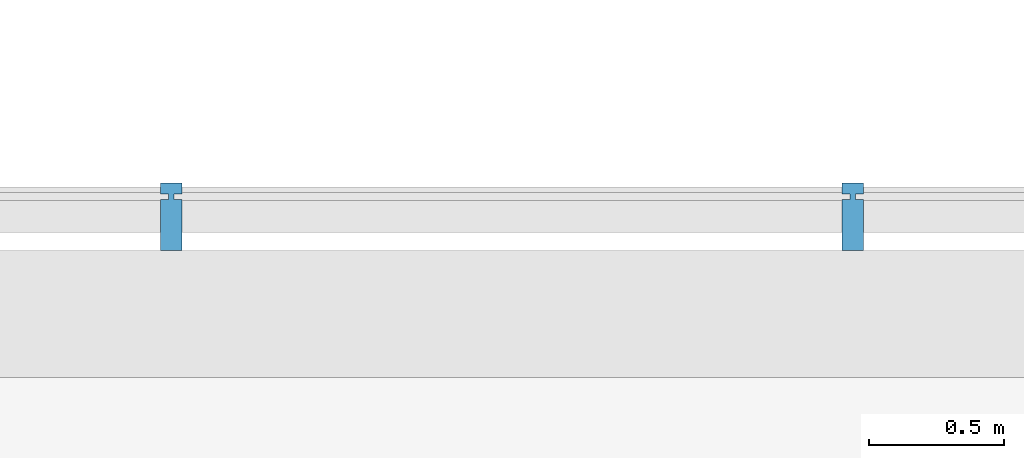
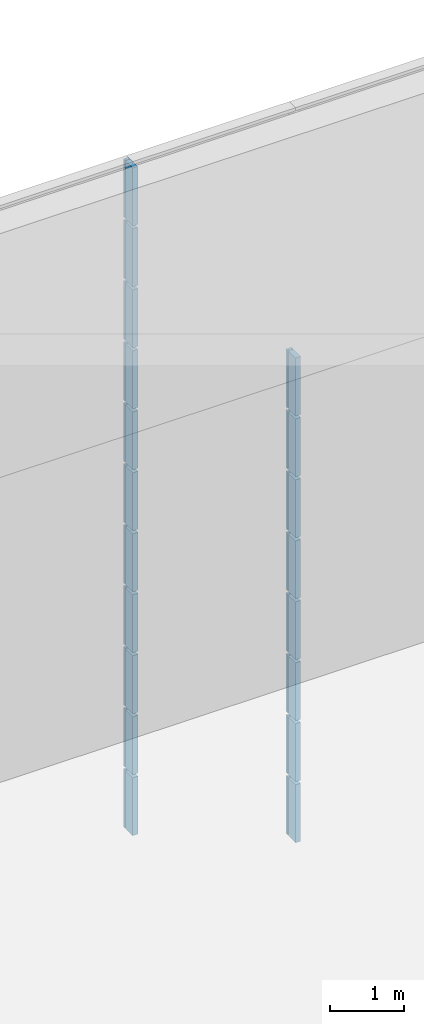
# One storey, part 88 of 105: 19 building element parts, 4 elements without a shape of their own.
"""IFC4 building model written with IfcOpenShell, lengths in millimetres."""

from ifc_helpers import new_model, entity, si_unit, converted_unit, derived_unit, direction, frame, origin_with_axes, place, context, subcontext, project, spatial, triangles, material, element, aggregate, save


model = new_model("IFC4")

# Units and contexts
model_context = context("Model", 3, precision=1e-05, world=origin_with_axes(), true_north=direction((0.0, 1.0)))
body_context = subcontext(model_context, "Body", "Model", "MODEL_VIEW")
ifc_project = project(units=[si_unit("LENGTHUNIT", "METRE", prefix="MILLI"), si_unit("AREAUNIT", "SQUARE_METRE"), si_unit("VOLUMEUNIT", "CUBIC_METRE"), converted_unit("PLANEANGLEUNIT", "DEGREE", entity("IfcLengthMeasure", 0.017453), si_unit("PLANEANGLEUNIT", "RADIAN"), dimensions=[0, 0, 0, 0, 0, 0, 0]), si_unit("SOLIDANGLEUNIT", "STERADIAN"), si_unit("MASSUNIT", "GRAM"), si_unit("TIMEUNIT", "SECOND"), si_unit("THERMODYNAMICTEMPERATUREUNIT", "DEGREE_CELSIUS"), si_unit("LUMINOUSINTENSITYUNIT", "LUMEN"), si_unit("POWERUNIT", "WATT"), derived_unit("THERMALTRANSMITTANCEUNIT", [(si_unit("POWERUNIT", "WATT"), 1), (si_unit("THERMODYNAMICTEMPERATUREUNIT", "KELVIN"), -1), (si_unit("AREAUNIT", "SQUARE_METRE"), -1)])], contexts=[model_context])

# Site, building, storey
site_placement = place(None, origin_with_axes())
site = spatial("IfcSite", under=ifc_project, at=site_placement, Name="Default Site", CompositionType="ELEMENT")
building_placement = place(site_placement, origin_with_axes())
building = spatial("IfcBuilding", under=site, at=building_placement, Name="Default Building", CompositionType="ELEMENT")
storey_placement = place(building_placement, origin_with_axes())
storey = spatial("IfcBuildingStorey", under=building, at=storey_placement, Name="OG - Story", CompositionType="ELEMENT", Elevation=0.0)

# Curtain wall, building element parts
curtain_wall_1_placement = place(storey_placement, origin_with_axes())
curtain_wall_1 = element("IfcCurtainWall", 1, at=curtain_wall_1_placement, inside=storey, Name="Fassade-004", PredefinedType="NOTDEFINED")
ifc_material = material(Name="Blech")
building_element_part_1_placement = place(curtain_wall_1_placement, frame((33014.549222, -4389.262838, 0.0), z_axis=(0.0, 0.0, 1.0), x_axis=(1.0, 0.0, 0.0)))
building_element_part_1 = element("IfcBuildingElementPart", 2, at=building_element_part_1_placement, material=ifc_material, Name="Blech", PredefinedType="NOTDEFINED", context=body_context, shape_type="Tessellation", body=[
    triangles([(16461.053, -9.999, 975.0), (16461.053, -199.999, 975.0), (16431.053, -9.999, 975.0), (16411.053, -9.999, 975.0), (16431.053, 10.0, 975.0), (16461.053, 50.0, 975.0), (16461.053, 10.0, 975.0), (16381.053, -199.999, 975.0), (16381.053, -9.999, 975.0), (16411.053, 10.0, 975.0), (16381.053, 10.0, 975.0), (16381.053, 50.0, 975.0), (16431.053, -9.999, 25.0), (16431.053, 10.0, 25.0), (16461.053, 10.0, 25.0), (16461.053, 50.0, 25.0), (16381.053, 50.0, 25.0), (16381.053, 10.0, 25.0), (16411.053, 10.0, 25.0), (16411.053, -9.999, 25.0), (16381.053, -9.999, 25.0), (16381.053, -199.999, 25.0), (16461.053, -199.999, 25.0), (16461.053, -9.999, 25.0)], [[1, 2, 3], [3, 2, 4], [3, 4, 5], [5, 4, 6], [5, 6, 7], [8, 9, 4], [8, 4, 2], [6, 4, 10], [6, 10, 11], [6, 11, 12], [3, 13, 14], [3, 14, 5], [5, 14, 15], [5, 15, 7], [15, 16, 6], [15, 6, 7], [12, 6, 16], [12, 16, 17], [18, 11, 12], [18, 12, 17], [11, 18, 19], [11, 19, 10], [4, 10, 19], [4, 19, 20], [9, 4, 20], [9, 20, 21], [9, 21, 22], [9, 22, 8], [2, 8, 22], [2, 22, 23], [1, 2, 23], [1, 23, 24], [1, 24, 13], [1, 13, 3], [15, 16, 14], [14, 16, 19], [14, 19, 13], [13, 19, 23], [13, 23, 24], [17, 18, 19], [17, 19, 16], [23, 19, 20], [23, 20, 21], [23, 21, 22]], closed=False),
])
building_element_part_2_placement = place(curtain_wall_1_placement, frame((33014.549222, -4389.262838, 0.0), z_axis=(0.0, 0.0, 1.0), x_axis=(1.0, 0.0, 0.0)))
building_element_part_2 = element("IfcBuildingElementPart", 3, at=building_element_part_2_placement, material=ifc_material, Name="Blech", PredefinedType="NOTDEFINED", context=body_context, shape_type="Tessellation", body=[
    triangles([(13934.737, -9.999, 1975.0), (13934.737, -199.999, 1975.0), (13904.737, -9.999, 1975.0), (13884.737, -9.999, 1975.0), (13904.737, 10.0, 1975.0), (13934.737, 50.0, 1975.0), (13934.737, 10.0, 1975.0), (13854.737, -199.999, 1975.0), (13854.737, -9.999, 1975.0), (13884.737, 10.0, 1975.0), (13854.737, 10.0, 1975.0), (13854.737, 50.0, 1975.0), (13904.737, -9.999, 1025.0), (13904.737, 10.0, 1025.0), (13934.737, 10.0, 1025.0), (13934.737, 50.0, 1025.0), (13854.737, 50.0, 1025.0), (13854.737, 10.0, 1025.0), (13884.737, 10.0, 1025.0), (13884.737, -9.999, 1025.0), (13854.737, -9.999, 1025.0), (13854.737, -199.999, 1025.0), (13934.737, -199.999, 1025.0), (13934.737, -9.999, 1025.0)], [[1, 2, 3], [3, 2, 4], [3, 4, 5], [5, 4, 6], [5, 6, 7], [8, 9, 4], [8, 4, 2], [6, 4, 10], [6, 10, 11], [6, 11, 12], [3, 13, 14], [3, 14, 5], [5, 14, 15], [5, 15, 7], [15, 16, 6], [15, 6, 7], [12, 6, 16], [12, 16, 17], [18, 11, 12], [18, 12, 17], [11, 18, 19], [11, 19, 10], [4, 10, 19], [4, 19, 20], [9, 4, 20], [9, 20, 21], [9, 21, 22], [9, 22, 8], [2, 8, 22], [2, 22, 23], [1, 2, 23], [1, 23, 24], [1, 24, 13], [1, 13, 3], [15, 16, 14], [14, 16, 19], [14, 19, 13], [13, 19, 23], [13, 23, 24], [17, 18, 19], [17, 19, 16], [23, 19, 20], [23, 20, 21], [23, 21, 22]], closed=False),
])
building_element_part_3_placement = place(curtain_wall_1_placement, frame((33014.549222, -4389.262838, 0.0), z_axis=(0.0, 0.0, 1.0), x_axis=(1.0, 0.0, 0.0)))
building_element_part_3 = element("IfcBuildingElementPart", 4, at=building_element_part_3_placement, material=ifc_material, Name="Blech", PredefinedType="NOTDEFINED", context=body_context, shape_type="Tessellation", body=[
    triangles([(16461.053, -9.999, 1975.0), (16461.053, -199.999, 1975.0), (16431.053, -9.999, 1975.0), (16411.053, -9.999, 1975.0), (16431.053, 10.0, 1975.0), (16461.053, 50.0, 1975.0), (16461.053, 10.0, 1975.0), (16381.053, -199.999, 1975.0), (16381.053, -9.999, 1975.0), (16411.053, 10.0, 1975.0), (16381.053, 10.0, 1975.0), (16381.053, 50.0, 1975.0), (16431.053, -9.999, 1025.0), (16431.053, 10.0, 1025.0), (16461.053, 10.0, 1025.0), (16461.053, 50.0, 1025.0), (16381.053, 50.0, 1025.0), (16381.053, 10.0, 1025.0), (16411.053, 10.0, 1025.0), (16411.053, -9.999, 1025.0), (16381.053, -9.999, 1025.0), (16381.053, -199.999, 1025.0), (16461.053, -199.999, 1025.0), (16461.053, -9.999, 1025.0)], [[1, 2, 3], [3, 2, 4], [3, 4, 5], [5, 4, 6], [5, 6, 7], [8, 9, 4], [8, 4, 2], [6, 4, 10], [6, 10, 11], [6, 11, 12], [3, 13, 14], [3, 14, 5], [5, 14, 15], [5, 15, 7], [15, 16, 6], [15, 6, 7], [12, 6, 16], [12, 16, 17], [18, 11, 12], [18, 12, 17], [11, 18, 19], [11, 19, 10], [4, 10, 19], [4, 19, 20], [9, 4, 20], [9, 20, 21], [9, 21, 22], [9, 22, 8], [2, 8, 22], [2, 22, 23], [1, 2, 23], [1, 23, 24], [1, 24, 13], [1, 13, 3], [15, 16, 14], [14, 16, 19], [14, 19, 13], [13, 19, 23], [13, 23, 24], [17, 18, 19], [17, 19, 16], [23, 19, 20], [23, 20, 21], [23, 21, 22]], closed=False),
])
building_element_part_4_placement = place(curtain_wall_1_placement, frame((33014.549222, -4389.262838, 0.0), z_axis=(0.0, 0.0, 1.0), x_axis=(1.0, 0.0, 0.0)))
building_element_part_4 = element("IfcBuildingElementPart", 5, at=building_element_part_4_placement, material=ifc_material, Name="Blech", PredefinedType="NOTDEFINED", context=body_context, shape_type="Tessellation", body=[
    triangles([(13934.737, -9.999, 2975.0), (13934.737, -199.999, 2975.0), (13904.737, -9.999, 2975.0), (13884.737, -9.999, 2975.0), (13904.737, 10.0, 2975.0), (13934.737, 50.0, 2975.0), (13934.737, 10.0, 2975.0), (13854.737, -199.999, 2975.0), (13854.737, -9.999, 2975.0), (13884.737, 10.0, 2975.0), (13854.737, 10.0, 2975.0), (13854.737, 50.0, 2975.0), (13904.737, -9.999, 2025.0), (13904.737, 10.0, 2025.0), (13934.737, 10.0, 2025.0), (13934.737, 50.0, 2025.0), (13854.737, 50.0, 2025.0), (13854.737, 10.0, 2025.0), (13884.737, 10.0, 2025.0), (13884.737, -9.999, 2025.0), (13854.737, -9.999, 2025.0), (13854.737, -199.999, 2025.0), (13934.737, -199.999, 2025.0), (13934.737, -9.999, 2025.0)], [[1, 2, 3], [3, 2, 4], [3, 4, 5], [5, 4, 6], [5, 6, 7], [8, 9, 4], [8, 4, 2], [6, 4, 10], [6, 10, 11], [6, 11, 12], [3, 13, 14], [3, 14, 5], [5, 14, 15], [5, 15, 7], [15, 16, 6], [15, 6, 7], [12, 6, 16], [12, 16, 17], [18, 11, 12], [18, 12, 17], [11, 18, 19], [11, 19, 10], [4, 10, 19], [4, 19, 20], [9, 4, 20], [9, 20, 21], [9, 21, 22], [9, 22, 8], [2, 8, 22], [2, 22, 23], [1, 2, 23], [1, 23, 24], [1, 24, 13], [1, 13, 3], [15, 16, 14], [14, 16, 19], [14, 19, 13], [13, 19, 23], [13, 23, 24], [17, 18, 19], [17, 19, 16], [23, 19, 20], [23, 20, 21], [23, 21, 22]], closed=False),
])
building_element_part_5_placement = place(curtain_wall_1_placement, frame((33014.549222, -4389.262838, 0.0), z_axis=(0.0, 0.0, 1.0), x_axis=(1.0, 0.0, 0.0)))
building_element_part_5 = element("IfcBuildingElementPart", 6, at=building_element_part_5_placement, material=ifc_material, Name="Blech", PredefinedType="NOTDEFINED", context=body_context, shape_type="Tessellation", body=[
    triangles([(16461.053, -9.999, 2975.0), (16461.053, -199.999, 2975.0), (16431.053, -9.999, 2975.0), (16411.053, -9.999, 2975.0), (16431.053, 10.0, 2975.0), (16461.053, 50.0, 2975.0), (16461.053, 10.0, 2975.0), (16381.053, -199.999, 2975.0), (16381.053, -9.999, 2975.0), (16411.053, 10.0, 2975.0), (16381.053, 10.0, 2975.0), (16381.053, 50.0, 2975.0), (16431.053, -9.999, 2025.0), (16431.053, 10.0, 2025.0), (16461.053, 10.0, 2025.0), (16461.053, 50.0, 2025.0), (16381.053, 50.0, 2025.0), (16381.053, 10.0, 2025.0), (16411.053, 10.0, 2025.0), (16411.053, -9.999, 2025.0), (16381.053, -9.999, 2025.0), (16381.053, -199.999, 2025.0), (16461.053, -199.999, 2025.0), (16461.053, -9.999, 2025.0)], [[1, 2, 3], [3, 2, 4], [3, 4, 5], [5, 4, 6], [5, 6, 7], [8, 9, 4], [8, 4, 2], [6, 4, 10], [6, 10, 11], [6, 11, 12], [3, 13, 14], [3, 14, 5], [5, 14, 15], [5, 15, 7], [15, 16, 6], [15, 6, 7], [12, 6, 16], [12, 16, 17], [18, 11, 12], [18, 12, 17], [11, 18, 19], [11, 19, 10], [4, 10, 19], [4, 19, 20], [9, 4, 20], [9, 20, 21], [9, 21, 22], [9, 22, 8], [2, 8, 22], [2, 22, 23], [1, 2, 23], [1, 23, 24], [1, 24, 13], [1, 13, 3], [15, 16, 14], [14, 16, 19], [14, 19, 13], [13, 19, 23], [13, 23, 24], [17, 18, 19], [17, 19, 16], [23, 19, 20], [23, 20, 21], [23, 21, 22]], closed=False),
])
aggregate(curtain_wall_1, [building_element_part_1, building_element_part_2, building_element_part_3, building_element_part_4, building_element_part_5])

curtain_wall_2_placement = place(storey_placement, origin_with_axes())
curtain_wall_2 = element("IfcCurtainWall", 7, at=curtain_wall_2_placement, inside=storey, Name="Fassade-004", PredefinedType="NOTDEFINED")
building_element_part_6_placement = place(curtain_wall_2_placement, frame((33014.549222, -4389.262838, 3000.0), z_axis=(0.0, 0.0, 1.0), x_axis=(1.0, 0.0, 0.0)))
building_element_part_6 = element("IfcBuildingElementPart", 8, at=building_element_part_6_placement, material=ifc_material, Name="Blech", PredefinedType="NOTDEFINED", context=body_context, shape_type="Tessellation", body=[
    triangles([(13934.737, -9.999, 975.0), (13934.737, -199.999, 975.0), (13904.737, -9.999, 975.0), (13884.737, -9.999, 975.0), (13904.737, 10.0, 975.0), (13934.737, 50.0, 975.0), (13934.737, 10.0, 975.0), (13854.737, -199.999, 975.0), (13854.737, -9.999, 975.0), (13884.737, 10.0, 975.0), (13854.737, 10.0, 975.0), (13854.737, 50.0, 975.0), (13904.737, -9.999, 25.0), (13904.737, 10.0, 25.0), (13934.737, 10.0, 25.0), (13934.737, 50.0, 25.0), (13854.737, 50.0, 25.0), (13854.737, 10.0, 25.0), (13884.737, 10.0, 25.0), (13884.737, -9.999, 25.0), (13854.737, -9.999, 25.0), (13854.737, -199.999, 25.0), (13934.737, -199.999, 25.0), (13934.737, -9.999, 25.0)], [[1, 2, 3], [3, 2, 4], [3, 4, 5], [5, 4, 6], [5, 6, 7], [8, 9, 4], [8, 4, 2], [6, 4, 10], [6, 10, 11], [6, 11, 12], [3, 13, 14], [3, 14, 5], [5, 14, 15], [5, 15, 7], [15, 16, 6], [15, 6, 7], [12, 6, 16], [12, 16, 17], [18, 11, 12], [18, 12, 17], [11, 18, 19], [11, 19, 10], [4, 10, 19], [4, 19, 20], [9, 4, 20], [9, 20, 21], [9, 21, 22], [9, 22, 8], [2, 8, 22], [2, 22, 23], [1, 2, 23], [1, 23, 24], [1, 24, 13], [1, 13, 3], [15, 16, 14], [14, 16, 19], [14, 19, 13], [13, 19, 23], [13, 23, 24], [17, 18, 19], [17, 19, 16], [23, 19, 20], [23, 20, 21], [23, 21, 22]], closed=False),
])
building_element_part_7_placement = place(curtain_wall_2_placement, frame((33014.549222, -4389.262838, 3000.0), z_axis=(0.0, 0.0, 1.0), x_axis=(1.0, 0.0, 0.0)))
building_element_part_7 = element("IfcBuildingElementPart", 9, at=building_element_part_7_placement, material=ifc_material, Name="Blech", PredefinedType="NOTDEFINED", context=body_context, shape_type="Tessellation", body=[
    triangles([(16461.053, -9.999, 975.0), (16461.053, -199.999, 975.0), (16431.053, -9.999, 975.0), (16411.053, -9.999, 975.0), (16431.053, 10.0, 975.0), (16461.053, 50.0, 975.0), (16461.053, 10.0, 975.0), (16381.053, -199.999, 975.0), (16381.053, -9.999, 975.0), (16411.053, 10.0, 975.0), (16381.053, 10.0, 975.0), (16381.053, 50.0, 975.0), (16431.053, -9.999, 25.0), (16431.053, 10.0, 25.0), (16461.053, 10.0, 25.0), (16461.053, 50.0, 25.0), (16381.053, 50.0, 25.0), (16381.053, 10.0, 25.0), (16411.053, 10.0, 25.0), (16411.053, -9.999, 25.0), (16381.053, -9.999, 25.0), (16381.053, -199.999, 25.0), (16461.053, -199.999, 25.0), (16461.053, -9.999, 25.0)], [[1, 2, 3], [3, 2, 4], [3, 4, 5], [5, 4, 6], [5, 6, 7], [8, 9, 4], [8, 4, 2], [6, 4, 10], [6, 10, 11], [6, 11, 12], [3, 13, 14], [3, 14, 5], [5, 14, 15], [5, 15, 7], [15, 16, 6], [15, 6, 7], [12, 6, 16], [12, 16, 17], [18, 11, 12], [18, 12, 17], [11, 18, 19], [11, 19, 10], [4, 10, 19], [4, 19, 20], [9, 4, 20], [9, 20, 21], [9, 21, 22], [9, 22, 8], [2, 8, 22], [2, 22, 23], [1, 2, 23], [1, 23, 24], [1, 24, 13], [1, 13, 3], [15, 16, 14], [14, 16, 19], [14, 19, 13], [13, 19, 23], [13, 23, 24], [17, 18, 19], [17, 19, 16], [23, 19, 20], [23, 20, 21], [23, 21, 22]], closed=False),
])
building_element_part_8_placement = place(curtain_wall_2_placement, frame((33014.549222, -4389.262838, 3000.0), z_axis=(0.0, 0.0, 1.0), x_axis=(1.0, 0.0, 0.0)))
building_element_part_8 = element("IfcBuildingElementPart", 10, at=building_element_part_8_placement, material=ifc_material, Name="Blech", PredefinedType="NOTDEFINED", context=body_context, shape_type="Tessellation", body=[
    triangles([(13934.737, -9.999, 1975.0), (13934.737, -199.999, 1975.0), (13904.737, -9.999, 1975.0), (13884.737, -9.999, 1975.0), (13904.737, 10.0, 1975.0), (13934.737, 50.0, 1975.0), (13934.737, 10.0, 1975.0), (13854.737, -199.999, 1975.0), (13854.737, -9.999, 1975.0), (13884.737, 10.0, 1975.0), (13854.737, 10.0, 1975.0), (13854.737, 50.0, 1975.0), (13904.737, -9.999, 1025.0), (13904.737, 10.0, 1025.0), (13934.737, 10.0, 1025.0), (13934.737, 50.0, 1025.0), (13854.737, 50.0, 1025.0), (13854.737, 10.0, 1025.0), (13884.737, 10.0, 1025.0), (13884.737, -9.999, 1025.0), (13854.737, -9.999, 1025.0), (13854.737, -199.999, 1025.0), (13934.737, -199.999, 1025.0), (13934.737, -9.999, 1025.0)], [[1, 2, 3], [3, 2, 4], [3, 4, 5], [5, 4, 6], [5, 6, 7], [8, 9, 4], [8, 4, 2], [6, 4, 10], [6, 10, 11], [6, 11, 12], [3, 13, 14], [3, 14, 5], [5, 14, 15], [5, 15, 7], [15, 16, 6], [15, 6, 7], [12, 6, 16], [12, 16, 17], [18, 11, 12], [18, 12, 17], [11, 18, 19], [11, 19, 10], [4, 10, 19], [4, 19, 20], [9, 4, 20], [9, 20, 21], [9, 21, 22], [9, 22, 8], [2, 8, 22], [2, 22, 23], [1, 2, 23], [1, 23, 24], [1, 24, 13], [1, 13, 3], [15, 16, 14], [14, 16, 19], [14, 19, 13], [13, 19, 23], [13, 23, 24], [17, 18, 19], [17, 19, 16], [23, 19, 20], [23, 20, 21], [23, 21, 22]], closed=False),
])
building_element_part_9_placement = place(curtain_wall_2_placement, frame((33014.549222, -4389.262838, 3000.0), z_axis=(0.0, 0.0, 1.0), x_axis=(1.0, 0.0, 0.0)))
building_element_part_9 = element("IfcBuildingElementPart", 11, at=building_element_part_9_placement, material=ifc_material, Name="Blech", PredefinedType="NOTDEFINED", context=body_context, shape_type="Tessellation", body=[
    triangles([(16461.053, -9.999, 1975.0), (16461.053, -199.999, 1975.0), (16431.053, -9.999, 1975.0), (16411.053, -9.999, 1975.0), (16431.053, 10.0, 1975.0), (16461.053, 50.0, 1975.0), (16461.053, 10.0, 1975.0), (16381.053, -199.999, 1975.0), (16381.053, -9.999, 1975.0), (16411.053, 10.0, 1975.0), (16381.053, 10.0, 1975.0), (16381.053, 50.0, 1975.0), (16431.053, -9.999, 1025.0), (16431.053, 10.0, 1025.0), (16461.053, 10.0, 1025.0), (16461.053, 50.0, 1025.0), (16381.053, 50.0, 1025.0), (16381.053, 10.0, 1025.0), (16411.053, 10.0, 1025.0), (16411.053, -9.999, 1025.0), (16381.053, -9.999, 1025.0), (16381.053, -199.999, 1025.0), (16461.053, -199.999, 1025.0), (16461.053, -9.999, 1025.0)], [[1, 2, 3], [3, 2, 4], [3, 4, 5], [5, 4, 6], [5, 6, 7], [8, 9, 4], [8, 4, 2], [6, 4, 10], [6, 10, 11], [6, 11, 12], [3, 13, 14], [3, 14, 5], [5, 14, 15], [5, 15, 7], [15, 16, 6], [15, 6, 7], [12, 6, 16], [12, 16, 17], [18, 11, 12], [18, 12, 17], [11, 18, 19], [11, 19, 10], [4, 10, 19], [4, 19, 20], [9, 4, 20], [9, 20, 21], [9, 21, 22], [9, 22, 8], [2, 8, 22], [2, 22, 23], [1, 2, 23], [1, 23, 24], [1, 24, 13], [1, 13, 3], [15, 16, 14], [14, 16, 19], [14, 19, 13], [13, 19, 23], [13, 23, 24], [17, 18, 19], [17, 19, 16], [23, 19, 20], [23, 20, 21], [23, 21, 22]], closed=False),
])
building_element_part_10_placement = place(curtain_wall_2_placement, frame((33014.549222, -4389.262838, 3000.0), z_axis=(0.0, 0.0, 1.0), x_axis=(1.0, 0.0, 0.0)))
building_element_part_10 = element("IfcBuildingElementPart", 12, at=building_element_part_10_placement, material=ifc_material, Name="Blech", PredefinedType="NOTDEFINED", context=body_context, shape_type="Tessellation", body=[
    triangles([(13934.737, -9.999, 2975.0), (13934.737, -199.999, 2975.0), (13904.737, -9.999, 2975.0), (13884.737, -9.999, 2975.0), (13904.737, 10.0, 2975.0), (13934.737, 50.0, 2975.0), (13934.737, 10.0, 2975.0), (13854.737, -199.999, 2975.0), (13854.737, -9.999, 2975.0), (13884.737, 10.0, 2975.0), (13854.737, 10.0, 2975.0), (13854.737, 50.0, 2975.0), (13904.737, -9.999, 2025.0), (13904.737, 10.0, 2025.0), (13934.737, 10.0, 2025.0), (13934.737, 50.0, 2025.0), (13854.737, 50.0, 2025.0), (13854.737, 10.0, 2025.0), (13884.737, 10.0, 2025.0), (13884.737, -9.999, 2025.0), (13854.737, -9.999, 2025.0), (13854.737, -199.999, 2025.0), (13934.737, -199.999, 2025.0), (13934.737, -9.999, 2025.0)], [[1, 2, 3], [3, 2, 4], [3, 4, 5], [5, 4, 6], [5, 6, 7], [8, 9, 4], [8, 4, 2], [6, 4, 10], [6, 10, 11], [6, 11, 12], [3, 13, 14], [3, 14, 5], [5, 14, 15], [5, 15, 7], [15, 16, 6], [15, 6, 7], [12, 6, 16], [12, 16, 17], [18, 11, 12], [18, 12, 17], [11, 18, 19], [11, 19, 10], [4, 10, 19], [4, 19, 20], [9, 4, 20], [9, 20, 21], [9, 21, 22], [9, 22, 8], [2, 8, 22], [2, 22, 23], [1, 2, 23], [1, 23, 24], [1, 24, 13], [1, 13, 3], [15, 16, 14], [14, 16, 19], [14, 19, 13], [13, 19, 23], [13, 23, 24], [17, 18, 19], [17, 19, 16], [23, 19, 20], [23, 20, 21], [23, 21, 22]], closed=False),
])
building_element_part_11_placement = place(curtain_wall_2_placement, frame((33014.549222, -4389.262838, 3000.0), z_axis=(0.0, 0.0, 1.0), x_axis=(1.0, 0.0, 0.0)))
building_element_part_11 = element("IfcBuildingElementPart", 13, at=building_element_part_11_placement, material=ifc_material, Name="Blech", PredefinedType="NOTDEFINED", context=body_context, shape_type="Tessellation", body=[
    triangles([(16461.053, -9.999, 2975.0), (16461.053, -199.999, 2975.0), (16431.053, -9.999, 2975.0), (16411.053, -9.999, 2975.0), (16431.053, 10.0, 2975.0), (16461.053, 50.0, 2975.0), (16461.053, 10.0, 2975.0), (16381.053, -199.999, 2975.0), (16381.053, -9.999, 2975.0), (16411.053, 10.0, 2975.0), (16381.053, 10.0, 2975.0), (16381.053, 50.0, 2975.0), (16431.053, -9.999, 2025.0), (16431.053, 10.0, 2025.0), (16461.053, 10.0, 2025.0), (16461.053, 50.0, 2025.0), (16381.053, 50.0, 2025.0), (16381.053, 10.0, 2025.0), (16411.053, 10.0, 2025.0), (16411.053, -9.999, 2025.0), (16381.053, -9.999, 2025.0), (16381.053, -199.999, 2025.0), (16461.053, -199.999, 2025.0), (16461.053, -9.999, 2025.0)], [[1, 2, 3], [3, 2, 4], [3, 4, 5], [5, 4, 6], [5, 6, 7], [8, 9, 4], [8, 4, 2], [6, 4, 10], [6, 10, 11], [6, 11, 12], [3, 13, 14], [3, 14, 5], [5, 14, 15], [5, 15, 7], [15, 16, 6], [15, 6, 7], [12, 6, 16], [12, 16, 17], [18, 11, 12], [18, 12, 17], [11, 18, 19], [11, 19, 10], [4, 10, 19], [4, 19, 20], [9, 4, 20], [9, 20, 21], [9, 21, 22], [9, 22, 8], [2, 8, 22], [2, 22, 23], [1, 2, 23], [1, 23, 24], [1, 24, 13], [1, 13, 3], [15, 16, 14], [14, 16, 19], [14, 19, 13], [13, 19, 23], [13, 23, 24], [17, 18, 19], [17, 19, 16], [23, 19, 20], [23, 20, 21], [23, 21, 22]], closed=False),
])
aggregate(curtain_wall_2, [building_element_part_6, building_element_part_7, building_element_part_8, building_element_part_9, building_element_part_10, building_element_part_11])

curtain_wall_3_placement = place(storey_placement, origin_with_axes())
curtain_wall_3 = element("IfcCurtainWall", 14, at=curtain_wall_3_placement, inside=storey, Name="Fassade-004", PredefinedType="NOTDEFINED")
building_element_part_12_placement = place(curtain_wall_3_placement, frame((33014.549222, -4389.262838, 6000.0), z_axis=(0.0, 0.0, 1.0), x_axis=(1.0, 0.0, 0.0)))
building_element_part_12 = element("IfcBuildingElementPart", 15, at=building_element_part_12_placement, material=ifc_material, Name="Blech", PredefinedType="NOTDEFINED", context=body_context, shape_type="Tessellation", body=[
    triangles([(13934.737, -9.999, 975.0), (13934.737, -199.999, 975.0), (13904.737, -9.999, 975.0), (13884.737, -9.999, 975.0), (13904.737, 10.0, 975.0), (13934.737, 50.0, 975.0), (13934.737, 10.0, 975.0), (13854.737, -199.999, 975.0), (13854.737, -9.999, 975.0), (13884.737, 10.0, 975.0), (13854.737, 10.0, 975.0), (13854.737, 50.0, 975.0), (13904.737, -9.999, 25.0), (13904.737, 10.0, 25.0), (13934.737, 10.0, 25.0), (13934.737, 50.0, 25.0), (13854.737, 50.0, 25.0), (13854.737, 10.0, 25.0), (13884.737, 10.0, 25.0), (13884.737, -9.999, 25.0), (13854.737, -9.999, 25.0), (13854.737, -199.999, 25.0), (13934.737, -199.999, 25.0), (13934.737, -9.999, 25.0)], [[1, 2, 3], [3, 2, 4], [3, 4, 5], [5, 4, 6], [5, 6, 7], [8, 9, 4], [8, 4, 2], [6, 4, 10], [6, 10, 11], [6, 11, 12], [3, 13, 14], [3, 14, 5], [5, 14, 15], [5, 15, 7], [15, 16, 6], [15, 6, 7], [12, 6, 16], [12, 16, 17], [18, 11, 12], [18, 12, 17], [11, 18, 19], [11, 19, 10], [4, 10, 19], [4, 19, 20], [9, 4, 20], [9, 20, 21], [9, 21, 22], [9, 22, 8], [2, 8, 22], [2, 22, 23], [1, 2, 23], [1, 23, 24], [1, 24, 13], [1, 13, 3], [15, 16, 14], [14, 16, 19], [14, 19, 13], [13, 19, 23], [13, 23, 24], [17, 18, 19], [17, 19, 16], [23, 19, 20], [23, 20, 21], [23, 21, 22]], closed=False),
])
building_element_part_13_placement = place(curtain_wall_3_placement, frame((33014.549222, -4389.262838, 6000.0), z_axis=(0.0, 0.0, 1.0), x_axis=(1.0, 0.0, 0.0)))
building_element_part_13 = element("IfcBuildingElementPart", 16, at=building_element_part_13_placement, material=ifc_material, Name="Blech", PredefinedType="NOTDEFINED", context=body_context, shape_type="Tessellation", body=[
    triangles([(16461.053, -9.999, 975.0), (16461.053, -199.999, 975.0), (16431.053, -9.999, 975.0), (16411.053, -9.999, 975.0), (16431.053, 10.0, 975.0), (16461.053, 50.0, 975.0), (16461.053, 10.0, 975.0), (16381.053, -199.999, 975.0), (16381.053, -9.999, 975.0), (16411.053, 10.0, 975.0), (16381.053, 10.0, 975.0), (16381.053, 50.0, 975.0), (16431.053, -9.999, 25.0), (16431.053, 10.0, 25.0), (16461.053, 10.0, 25.0), (16461.053, 50.0, 25.0), (16381.053, 50.0, 25.0), (16381.053, 10.0, 25.0), (16411.053, 10.0, 25.0), (16411.053, -9.999, 25.0), (16381.053, -9.999, 25.0), (16381.053, -199.999, 25.0), (16461.053, -199.999, 25.0), (16461.053, -9.999, 25.0)], [[1, 2, 3], [3, 2, 4], [3, 4, 5], [5, 4, 6], [5, 6, 7], [8, 9, 4], [8, 4, 2], [6, 4, 10], [6, 10, 11], [6, 11, 12], [3, 13, 14], [3, 14, 5], [5, 14, 15], [5, 15, 7], [15, 16, 6], [15, 6, 7], [12, 6, 16], [12, 16, 17], [18, 11, 12], [18, 12, 17], [11, 18, 19], [11, 19, 10], [4, 10, 19], [4, 19, 20], [9, 4, 20], [9, 20, 21], [9, 21, 22], [9, 22, 8], [2, 8, 22], [2, 22, 23], [1, 2, 23], [1, 23, 24], [1, 24, 13], [1, 13, 3], [15, 16, 14], [14, 16, 19], [14, 19, 13], [13, 19, 23], [13, 23, 24], [17, 18, 19], [17, 19, 16], [23, 19, 20], [23, 20, 21], [23, 21, 22]], closed=False),
])
building_element_part_14_placement = place(curtain_wall_3_placement, frame((33014.549222, -4389.262838, 6000.0), z_axis=(0.0, 0.0, 1.0), x_axis=(1.0, 0.0, 0.0)))
building_element_part_14 = element("IfcBuildingElementPart", 17, at=building_element_part_14_placement, material=ifc_material, Name="Blech", PredefinedType="NOTDEFINED", context=body_context, shape_type="Tessellation", body=[
    triangles([(13934.737, -9.999, 1975.0), (13934.737, -199.999, 1975.0), (13904.737, -9.999, 1975.0), (13884.737, -9.999, 1975.0), (13904.737, 10.0, 1975.0), (13934.737, 50.0, 1975.0), (13934.737, 10.0, 1975.0), (13854.737, -199.999, 1975.0), (13854.737, -9.999, 1975.0), (13884.737, 10.0, 1975.0), (13854.737, 10.0, 1975.0), (13854.737, 50.0, 1975.0), (13904.737, -9.999, 1025.0), (13904.737, 10.0, 1025.0), (13934.737, 10.0, 1025.0), (13934.737, 50.0, 1025.0), (13854.737, 50.0, 1025.0), (13854.737, 10.0, 1025.0), (13884.737, 10.0, 1025.0), (13884.737, -9.999, 1025.0), (13854.737, -9.999, 1025.0), (13854.737, -199.999, 1025.0), (13934.737, -199.999, 1025.0), (13934.737, -9.999, 1025.0)], [[1, 2, 3], [3, 2, 4], [3, 4, 5], [5, 4, 6], [5, 6, 7], [8, 9, 4], [8, 4, 2], [6, 4, 10], [6, 10, 11], [6, 11, 12], [3, 13, 14], [3, 14, 5], [5, 14, 15], [5, 15, 7], [15, 16, 6], [15, 6, 7], [12, 6, 16], [12, 16, 17], [18, 11, 12], [18, 12, 17], [11, 18, 19], [11, 19, 10], [4, 10, 19], [4, 19, 20], [9, 4, 20], [9, 20, 21], [9, 21, 22], [9, 22, 8], [2, 8, 22], [2, 22, 23], [1, 2, 23], [1, 23, 24], [1, 24, 13], [1, 13, 3], [15, 16, 14], [14, 16, 19], [14, 19, 13], [13, 19, 23], [13, 23, 24], [17, 18, 19], [17, 19, 16], [23, 19, 20], [23, 20, 21], [23, 21, 22]], closed=False),
])
building_element_part_15_placement = place(curtain_wall_3_placement, frame((33014.549222, -4389.262838, 6000.0), z_axis=(0.0, 0.0, 1.0), x_axis=(1.0, 0.0, 0.0)))
building_element_part_15 = element("IfcBuildingElementPart", 18, at=building_element_part_15_placement, material=ifc_material, Name="Blech", PredefinedType="NOTDEFINED", context=body_context, shape_type="Tessellation", body=[
    triangles([(16461.053, -9.999, 1975.0), (16461.053, -199.999, 1975.0), (16431.053, -9.999, 1975.0), (16411.053, -9.999, 1975.0), (16431.053, 10.0, 1975.0), (16461.053, 50.0, 1975.0), (16461.053, 10.0, 1975.0), (16381.053, -199.999, 1975.0), (16381.053, -9.999, 1975.0), (16411.053, 10.0, 1975.0), (16381.053, 10.0, 1975.0), (16381.053, 50.0, 1975.0), (16431.053, -9.999, 1025.0), (16431.053, 10.0, 1025.0), (16461.053, 10.0, 1025.0), (16461.053, 50.0, 1025.0), (16381.053, 50.0, 1025.0), (16381.053, 10.0, 1025.0), (16411.053, 10.0, 1025.0), (16411.053, -9.999, 1025.0), (16381.053, -9.999, 1025.0), (16381.053, -199.999, 1025.0), (16461.053, -199.999, 1025.0), (16461.053, -9.999, 1025.0)], [[1, 2, 3], [3, 2, 4], [3, 4, 5], [5, 4, 6], [5, 6, 7], [8, 9, 4], [8, 4, 2], [6, 4, 10], [6, 10, 11], [6, 11, 12], [3, 13, 14], [3, 14, 5], [5, 14, 15], [5, 15, 7], [15, 16, 6], [15, 6, 7], [12, 6, 16], [12, 16, 17], [18, 11, 12], [18, 12, 17], [11, 18, 19], [11, 19, 10], [4, 10, 19], [4, 19, 20], [9, 4, 20], [9, 20, 21], [9, 21, 22], [9, 22, 8], [2, 8, 22], [2, 22, 23], [1, 2, 23], [1, 23, 24], [1, 24, 13], [1, 13, 3], [15, 16, 14], [14, 16, 19], [14, 19, 13], [13, 19, 23], [13, 23, 24], [17, 18, 19], [17, 19, 16], [23, 19, 20], [23, 20, 21], [23, 21, 22]], closed=False),
])
building_element_part_16_placement = place(curtain_wall_3_placement, frame((33014.549222, -4389.262838, 6000.0), z_axis=(0.0, 0.0, 1.0), x_axis=(1.0, 0.0, 0.0)))
building_element_part_16 = element("IfcBuildingElementPart", 19, at=building_element_part_16_placement, material=ifc_material, Name="Blech", PredefinedType="NOTDEFINED", context=body_context, shape_type="Tessellation", body=[
    triangles([(13934.737, -9.999, 2975.0), (13934.737, -199.999, 2975.0), (13904.737, -9.999, 2975.0), (13884.737, -9.999, 2975.0), (13904.737, 10.0, 2975.0), (13934.737, 50.0, 2975.0), (13934.737, 10.0, 2975.0), (13854.737, -199.999, 2975.0), (13854.737, -9.999, 2975.0), (13884.737, 10.0, 2975.0), (13854.737, 10.0, 2975.0), (13854.737, 50.0, 2975.0), (13904.737, -9.999, 2025.0), (13904.737, 10.0, 2025.0), (13934.737, 10.0, 2025.0), (13934.737, 50.0, 2025.0), (13854.737, 50.0, 2025.0), (13854.737, 10.0, 2025.0), (13884.737, 10.0, 2025.0), (13884.737, -9.999, 2025.0), (13854.737, -9.999, 2025.0), (13854.737, -199.999, 2025.0), (13934.737, -199.999, 2025.0), (13934.737, -9.999, 2025.0)], [[1, 2, 3], [3, 2, 4], [3, 4, 5], [5, 4, 6], [5, 6, 7], [8, 9, 4], [8, 4, 2], [6, 4, 10], [6, 10, 11], [6, 11, 12], [3, 13, 14], [3, 14, 5], [5, 14, 15], [5, 15, 7], [15, 16, 6], [15, 6, 7], [12, 6, 16], [12, 16, 17], [18, 11, 12], [18, 12, 17], [11, 18, 19], [11, 19, 10], [4, 10, 19], [4, 19, 20], [9, 4, 20], [9, 20, 21], [9, 21, 22], [9, 22, 8], [2, 8, 22], [2, 22, 23], [1, 2, 23], [1, 23, 24], [1, 24, 13], [1, 13, 3], [15, 16, 14], [14, 16, 19], [14, 19, 13], [13, 19, 23], [13, 23, 24], [17, 18, 19], [17, 19, 16], [23, 19, 20], [23, 20, 21], [23, 21, 22]], closed=False),
])
aggregate(curtain_wall_3, [building_element_part_12, building_element_part_13, building_element_part_14, building_element_part_15, building_element_part_16])

curtain_wall_4_placement = place(storey_placement, origin_with_axes())
curtain_wall_4 = element("IfcCurtainWall", 20, at=curtain_wall_4_placement, inside=storey, Name="Fassade-004", PredefinedType="NOTDEFINED")
building_element_part_17_placement = place(curtain_wall_4_placement, frame((33014.549222, -4389.262838, 9000.0), z_axis=(0.0, 0.0, 1.0), x_axis=(1.0, 0.0, 0.0)))
building_element_part_17 = element("IfcBuildingElementPart", 21, at=building_element_part_17_placement, material=ifc_material, Name="Blech", PredefinedType="NOTDEFINED", context=body_context, shape_type="Tessellation", body=[
    triangles([(13934.737, -9.999, 975.0), (13934.737, -199.999, 975.0), (13904.737, -9.999, 975.0), (13884.737, -9.999, 975.0), (13904.737, 10.0, 975.0), (13934.737, 50.0, 975.0), (13934.737, 10.0, 975.0), (13854.737, -199.999, 975.0), (13854.737, -9.999, 975.0), (13884.737, 10.0, 975.0), (13854.737, 10.0, 975.0), (13854.737, 50.0, 975.0), (13904.737, -9.999, 25.0), (13904.737, 10.0, 25.0), (13934.737, 10.0, 25.0), (13934.737, 50.0, 25.0), (13854.737, 50.0, 25.0), (13854.737, 10.0, 25.0), (13884.737, 10.0, 25.0), (13884.737, -9.999, 25.0), (13854.737, -9.999, 25.0), (13854.737, -199.999, 25.0), (13934.737, -199.999, 25.0), (13934.737, -9.999, 25.0)], [[1, 2, 3], [3, 2, 4], [3, 4, 5], [5, 4, 6], [5, 6, 7], [8, 9, 4], [8, 4, 2], [6, 4, 10], [6, 10, 11], [6, 11, 12], [3, 13, 14], [3, 14, 5], [5, 14, 15], [5, 15, 7], [15, 16, 6], [15, 6, 7], [12, 6, 16], [12, 16, 17], [18, 11, 12], [18, 12, 17], [11, 18, 19], [11, 19, 10], [4, 10, 19], [4, 19, 20], [9, 4, 20], [9, 20, 21], [9, 21, 22], [9, 22, 8], [2, 8, 22], [2, 22, 23], [1, 2, 23], [1, 23, 24], [1, 24, 13], [1, 13, 3], [15, 16, 14], [14, 16, 19], [14, 19, 13], [13, 19, 23], [13, 23, 24], [17, 18, 19], [17, 19, 16], [23, 19, 20], [23, 20, 21], [23, 21, 22]], closed=False),
])
building_element_part_18_placement = place(curtain_wall_4_placement, frame((33014.549222, -4389.262838, 9000.0), z_axis=(0.0, 0.0, 1.0), x_axis=(1.0, 0.0, 0.0)))
building_element_part_18 = element("IfcBuildingElementPart", 22, at=building_element_part_18_placement, material=ifc_material, Name="Blech", PredefinedType="NOTDEFINED", context=body_context, shape_type="Tessellation", body=[
    triangles([(13934.737, -9.999, 1975.0), (13934.737, -199.999, 1975.0), (13904.737, -9.999, 1975.0), (13884.737, -9.999, 1975.0), (13904.737, 10.0, 1975.0), (13934.737, 50.0, 1975.0), (13934.737, 10.0, 1975.0), (13854.737, -199.999, 1975.0), (13854.737, -9.999, 1975.0), (13884.737, 10.0, 1975.0), (13854.737, 10.0, 1975.0), (13854.737, 50.0, 1975.0), (13904.737, -9.999, 1025.0), (13904.737, 10.0, 1025.0), (13934.737, 10.0, 1025.0), (13934.737, 50.0, 1025.0), (13854.737, 50.0, 1025.0), (13854.737, 10.0, 1025.0), (13884.737, 10.0, 1025.0), (13884.737, -9.999, 1025.0), (13854.737, -9.999, 1025.0), (13854.737, -199.999, 1025.0), (13934.737, -199.999, 1025.0), (13934.737, -9.999, 1025.0)], [[1, 2, 3], [3, 2, 4], [3, 4, 5], [5, 4, 6], [5, 6, 7], [8, 9, 4], [8, 4, 2], [6, 4, 10], [6, 10, 11], [6, 11, 12], [3, 13, 14], [3, 14, 5], [5, 14, 15], [5, 15, 7], [15, 16, 6], [15, 6, 7], [12, 6, 16], [12, 16, 17], [18, 11, 12], [18, 12, 17], [11, 18, 19], [11, 19, 10], [4, 10, 19], [4, 19, 20], [9, 4, 20], [9, 20, 21], [9, 21, 22], [9, 22, 8], [2, 8, 22], [2, 22, 23], [1, 2, 23], [1, 23, 24], [1, 24, 13], [1, 13, 3], [15, 16, 14], [14, 16, 19], [14, 19, 13], [13, 19, 23], [13, 23, 24], [17, 18, 19], [17, 19, 16], [23, 19, 20], [23, 20, 21], [23, 21, 22]], closed=False),
])
building_element_part_19_placement = place(curtain_wall_4_placement, frame((33014.549222, -4389.262838, 9000.0), z_axis=(0.0, 0.0, 1.0), x_axis=(1.0, 0.0, 0.0)))
building_element_part_19 = element("IfcBuildingElementPart", 23, at=building_element_part_19_placement, material=ifc_material, Name="Blech", PredefinedType="NOTDEFINED", context=body_context, shape_type="Tessellation", body=[
    triangles([(13934.737, -9.999, 2975.0), (13934.737, -199.999, 2975.0), (13904.737, -9.999, 2975.0), (13884.737, -9.999, 2975.0), (13904.737, 10.0, 2975.0), (13934.737, 50.0, 2975.0), (13934.737, 10.0, 2975.0), (13854.737, -199.999, 2975.0), (13854.737, -9.999, 2975.0), (13884.737, 10.0, 2975.0), (13854.737, 10.0, 2975.0), (13854.737, 50.0, 2975.0), (13904.737, -9.999, 2025.0), (13904.737, 10.0, 2025.0), (13934.737, 10.0, 2025.0), (13934.737, 50.0, 2025.0), (13854.737, 50.0, 2025.0), (13854.737, 10.0, 2025.0), (13884.737, 10.0, 2025.0), (13884.737, -9.999, 2025.0), (13854.737, -9.999, 2025.0), (13854.737, -199.999, 2025.0), (13934.737, -199.999, 2025.0), (13934.737, -9.999, 2025.0)], [[1, 2, 3], [3, 2, 4], [3, 4, 5], [5, 4, 6], [5, 6, 7], [8, 9, 4], [8, 4, 2], [6, 4, 10], [6, 10, 11], [6, 11, 12], [3, 13, 14], [3, 14, 5], [5, 14, 15], [5, 15, 7], [15, 16, 6], [15, 6, 7], [12, 6, 16], [12, 16, 17], [18, 11, 12], [18, 12, 17], [11, 18, 19], [11, 19, 10], [4, 10, 19], [4, 19, 20], [9, 4, 20], [9, 20, 21], [9, 21, 22], [9, 22, 8], [2, 8, 22], [2, 22, 23], [1, 2, 23], [1, 23, 24], [1, 24, 13], [1, 13, 3], [15, 16, 14], [14, 16, 19], [14, 19, 13], [13, 19, 23], [13, 23, 24], [17, 18, 19], [17, 19, 16], [23, 19, 20], [23, 20, 21], [23, 21, 22]], closed=False),
])
aggregate(curtain_wall_4, [building_element_part_17, building_element_part_18, building_element_part_19])

save(model, "model.ifc")
